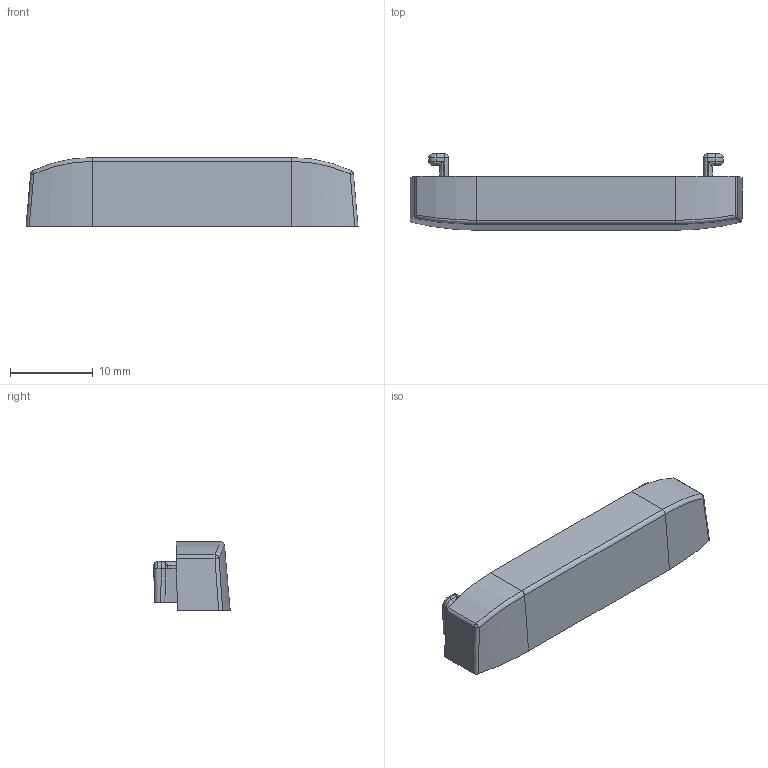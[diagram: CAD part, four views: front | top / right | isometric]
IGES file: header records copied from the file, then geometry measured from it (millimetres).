
Global section: file name: C:\CoreTechnologie\3D-In/021-907-06.igs; native system: CT CoreTechnologie 3D Evolution; preprocessor: 2006; date: 1200216.151749; units: millimetre
Bounding box: 40 x 9.2 x 8.3 mm (x, y, z)
Volume: 734.2 mm3; surface area: 1398 mm2
Topology: 1 solids, 1 shells, 223 faces, 580 edges, 378 vertices
Faces by surface type: plane 124, revolution 55, bspline 44
